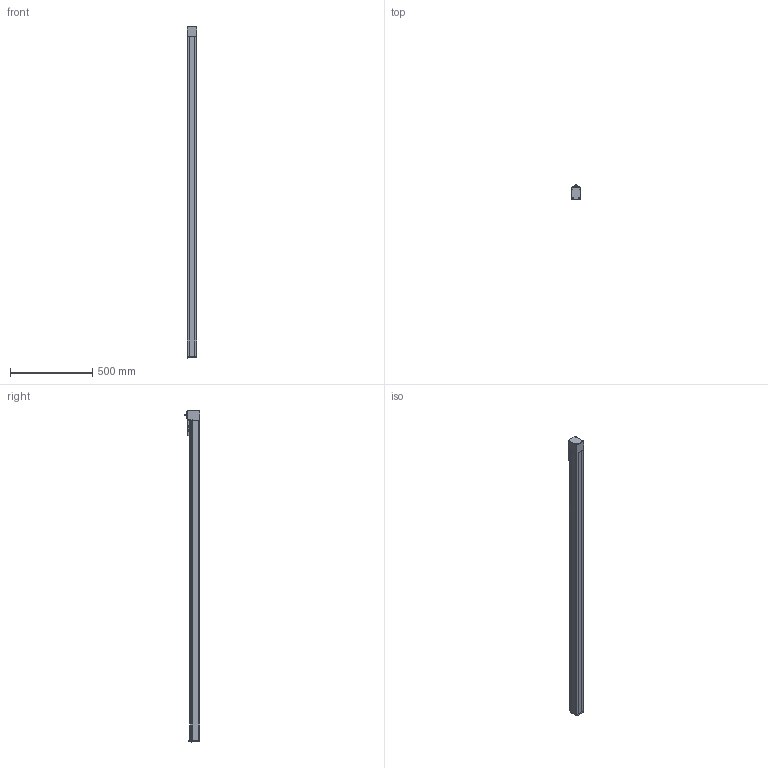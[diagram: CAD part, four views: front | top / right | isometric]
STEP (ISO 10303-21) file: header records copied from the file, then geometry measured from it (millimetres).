
FILE_DESCRIPTION(/* description */ ('STEP AP214'),/* implementation_level */ '2;1');
FILE_NAME(/* name */ 'MGTB 60 1800(0)',/* time_stamp */ '2023-04-17T13:42:07+02:00',/* author */ ('License CC BY-ND 4.0'),/* organization */ ('CADENAS'),/* preprocessor_version */ 'ST-DEVELOPER v19.3',/* originating_system */ 'PARTsolutions',/* authorisation */ ' ');
FILE_SCHEMA (('AUTOMOTIVE_DESIGN {1 0 10303 214 3 1 1}'));
Length unit declared in the file: millimetre
Products named in the file (6): MGTB 60 1800(0); MGTB 60 1800_protection_strip; MGTB 60_carriage; MGTB 60_end_block; MGTB 60 1800_profile; MGTB 60_drive_block
Assembly tree (5 placements, depth 2):
  MGTB 60 1800(0)
    MGTB 60 1800_protection_strip
    MGTB 60_carriage
    MGTB 60_end_block
    MGTB 60 1800_profile
    MGTB 60_drive_block
Bounding box: 60 x 92.5 x 2015.01 mm (x, y, z)
Volume: 7006046.6 mm3; surface area: 806076.6 mm2
Topology: 5 solids, 5 shells, 696 faces, 1771 edges, 1140 vertices
Faces by surface type: plane 351, cylinder 156, cone 94, bspline 68, torus 25, sphere 2
Full cylindrical faces by diameter (mm): 2 x1, 2.459 x4, 3.242 x6, 4 x12, 4.134 x8, 4.2 x2, 4.8 x2, 5 x2, 5.5 x4, 7 x6, 8 x4, 10 x1, 11 x3, 16 x1, 17 x1, 30 x1, 35 x1, 42 x2
Entity records: 25037 total; most frequent: CARTESIAN_POINT 4184, DIRECTION 3411, ORIENTED_EDGE 3232, EDGE_CURVE 1616, AXIS2_PLACEMENT_3D 1219, VERTEX_POINT 1120, LINE 973, VECTOR 973
